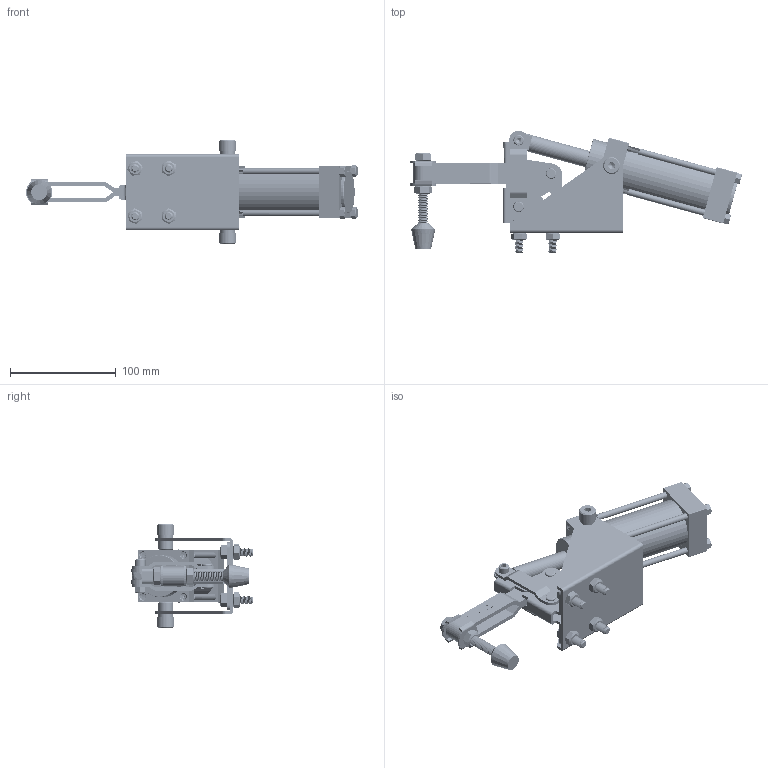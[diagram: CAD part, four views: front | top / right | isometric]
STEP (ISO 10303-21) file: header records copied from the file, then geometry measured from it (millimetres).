
FILE_DESCRIPTION(/* description */ ('STEP AP203'),/* implementation_level */ '2;1');
FILE_NAME(/* name */ 'D:\Vault_2016\Projekty\STRONA\Pneumatic toggle clamp\CH-12265-A\CH-12265-A_ZAMKNIETY.stp',/* time_stamp */ '2019-01-29T11:47:48+01:00',/* author */ ('user'),/* organization */ ('Î¢ÈíÖÐ¹ú'),/* preprocessor_version */ 'ST-DEVELOPER v17.2',/* originating_system */ 'Autodesk Inventor 2019',/* authorisation */ '');
FILE_SCHEMA (('AUTOMOTIVE_DESIGN { 1 0 10303 214 3 1 1 }'));
Products named in the file (22): CH-12265-A_ZAMKNIETY; CH-12265-A-03_Ä¬ÈÏ; CH-12265-A-01_Ä¬ÈÏ; 20RIVET_Ä¬ÈÏ; CH-FC-38312_Ä¬ÈÏ; CH-12265-06_Ä¬ÈÏ; CH-12265-A-02_Ä¬ÈÏ; CH-12265-02_Ä¬ÈÏ; CH-FW-380_Ä¬ÈÏ; 38312_Ä¬ÈÏ; Air cylinder-2_Ä¬ÈÏ; M8_Ä¬ÈÏ; CH-12265-01_Ä¬ÈÏ; Air cylinder-1_Ä¬ÈÏ; M8-25_Ä¬ÈÏ; Air cylinder-3_Ä¬ÈÏ; M10-20_Ä¬ÈÏ; CH-12265-05_Ä¬ÈÏ; CH-12265-A-04_Ä¬ÈÏ; M6-25_Ä¬ÈÏ; 14RIVET_Ä¬ÈÏ; M6NUT_Ä¬ÈÏ
Assembly tree (36 placements, depth 2):
  CH-12265-A_ZAMKNIETY
    M10-20_Ä¬ÈÏ  x2
    M8-25_Ä¬ÈÏ  x4
    CH-FW-380_Ä¬ÈÏ  x2
    Air cylinder-3_Ä¬ÈÏ  x4
    CH-12265-A-03_Ä¬ÈÏ
    CH-12265-A-01_Ä¬ÈÏ
    38312_Ä¬ÈÏ  x2
    M8_Ä¬ÈÏ  x4
    CH-12265-06_Ä¬ÈÏ  x2
    20RIVET_Ä¬ÈÏ
    CH-FC-38312_Ä¬ÈÏ
    CH-12265-A-04_Ä¬ÈÏ  x2
    CH-12265-A-02_Ä¬ÈÏ
    CH-12265-02_Ä¬ÈÏ
    14RIVET_Ä¬ÈÏ  x2
    Air cylinder-2_Ä¬ÈÏ
    CH-12265-01_Ä¬ÈÏ
    Air cylinder-1_Ä¬ÈÏ
    CH-12265-05_Ä¬ÈÏ
    M6-25_Ä¬ÈÏ
    M6NUT_Ä¬ÈÏ
Bounding box: 314.58 x 115.99 x 98 mm (x, y, z)
Volume: 404248.7 mm3; surface area: 164263.8 mm2
Topology: 38 solids, 39 shells, 1116 faces, 3246 edges, 2259 vertices
Faces by surface type: plane 519, cylinder 321, bspline 145, cone 119, torus 12
Full cylindrical faces by diameter (mm): 2.482 x1, 2.887 x1, 6 x5, 6.1 x1, 6.2 x3, 6.4 x15, 6.5 x16, 8 x68, 8.4 x2, 8.7 x8, 9.5 x53, 9.6 x3, 9.8 x2, 10 x27, 10.1 x2, 13.856 x1, 14 x2, 14.1 x2, 16 x4, 40 x2, 45 x1
Entity records: 73005 total; most frequent: CARTESIAN_POINT 51572, ORIENTED_EDGE 4702, DIRECTION 3703, EDGE_CURVE 2351, VERTEX_POINT 1638, AXIS2_PLACEMENT_3D 1291, LINE 1121, VECTOR 1121
